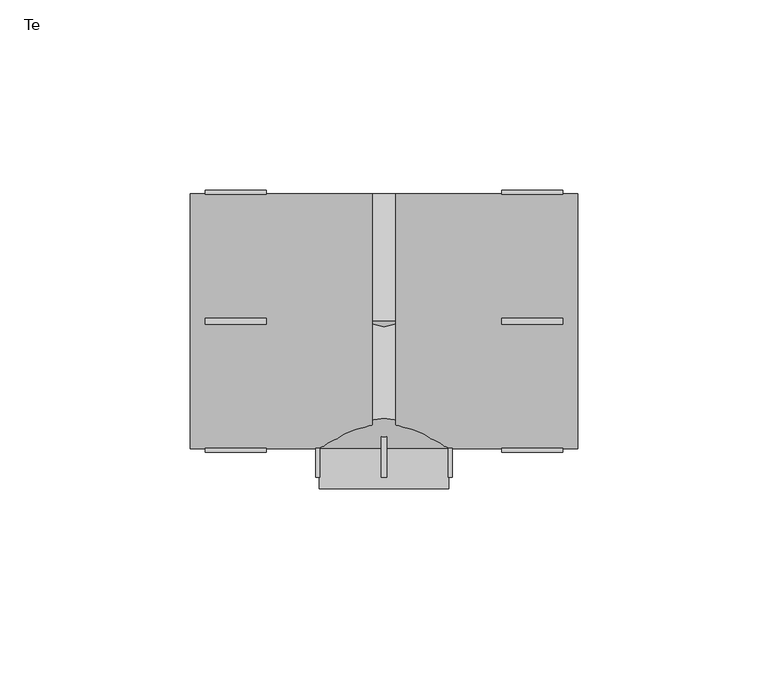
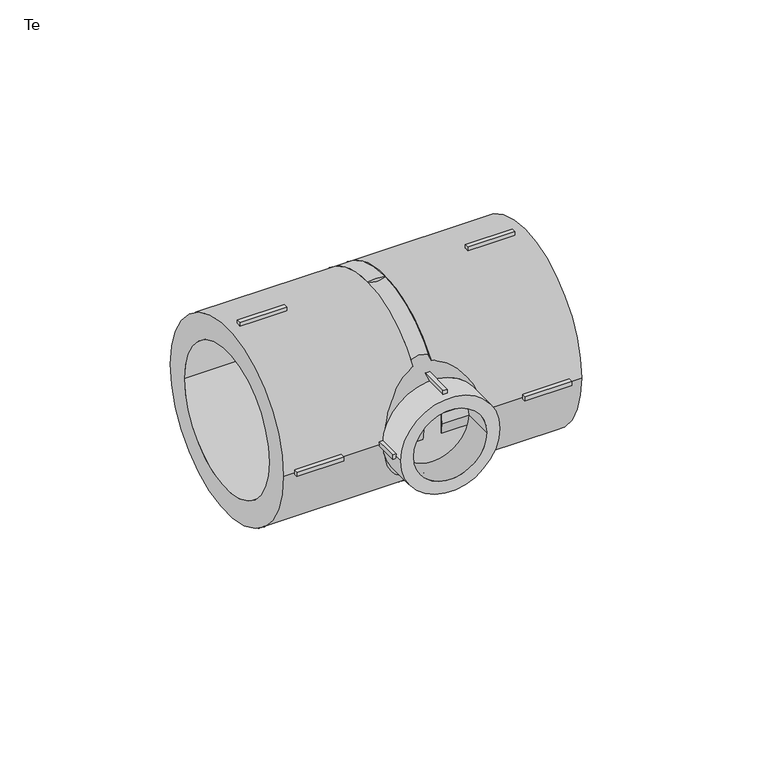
"""IFC4 building model written with IfcOpenShell, lengths in millimetres: pipe fitting geometry, EGB_VASEN_ PPR_Te WXR300_Te reducida WXR310 : Te."""

import ifcopenshell
import ifcopenshell.guid

model = None  # the IFC model being written
_history = None  # IfcOwnerHistory: only IFC2X3 demands one
_inside = {}  # id of a spatial element -> (the spatial element, [elements in it])
_under = {}  # id of a project, library or spatial element -> (it, [spatial elements below it])
_declared = {}  # id of a project -> (the project, [libraries it declares])
_typed = {}  # id of a type object -> (the type object, [elements of that type])
_made_of = {}  # id of a material, layer set ... -> (it, [elements and type objects made of it])


def new_model(schema):
    """Start an empty IFC model of exactly this schema.

    Asked for "IFC4X3", IfcOpenShell would pick the latest addendum, in which some entities
    have other attributes; the version numbers below select the first issue.
    IFC2X3 requires an IfcOwnerHistory on every rooted entity: one is made here for all.
    """
    global model, _history
    if schema == "IFC4X3":
        model = ifcopenshell.file(schema_version=(4, 3, 0, 0))
    else:
        model = ifcopenshell.file(schema=schema)
    _inside.clear()
    _under.clear()
    _declared.clear()
    _typed.clear()
    _made_of.clear()
    _history = None
    if model.schema == "IFC2X3":
        org = make("IfcOrganization", Name="unknown")
        user = make(
            "IfcPersonAndOrganization",
            ThePerson=make("IfcPerson", FamilyName="unknown"),
            TheOrganization=org,
        )
        app = make(
            "IfcApplication",
            ApplicationDeveloper=org,
            Version="unknown",
            ApplicationFullName="unknown",
            ApplicationIdentifier="unknown",
        )
        _history = make(
            "IfcOwnerHistory",
            OwningUser=user,
            OwningApplication=app,
            ChangeAction="ADDED",
            CreationDate=0,
        )
    return model


def make(cls, **values):
    """One entity of the class cls with the attributes given. An attribute that is None is left unset."""
    return model.create_entity(
        cls, **{name: value for name, value in values.items() if value is not None}
    )


def rooted(cls, **values):
    """An entity with a GlobalId (a new one), such as an element, a storey or a relation."""
    return make(cls, GlobalId=ifcopenshell.guid.new(), OwnerHistory=_history, **values)


def si_unit(unit_type, name, prefix=None):
    """IfcSIUnit, for example si_unit("LENGTHUNIT", "METRE", prefix="MILLI")."""
    return make("IfcSIUnit", UnitType=unit_type, Prefix=prefix, Name=name)


def assignment(units):
    """IfcUnitAssignment: the units of a project."""
    return None if units is None else make("IfcUnitAssignment", Units=units)


def point(xyz):
    """IfcCartesianPoint."""
    return None if xyz is None else make("IfcCartesianPoint", Coordinates=xyz)


def direction(xyz):
    """IfcDirection."""
    return None if xyz is None else make("IfcDirection", DirectionRatios=xyz)


def frame(location, z_axis=None, x_axis=None):
    """IfcAxis2Placement3D, a coordinate frame: its origin and axes. An axis left out is left unset."""
    return make(
        "IfcAxis2Placement3D",
        Location=point(location),
        Axis=direction(z_axis),
        RefDirection=direction(x_axis),
    )


def frame_2d(location, x_axis=None):
    """IfcAxis2Placement2D, a coordinate frame in the plane: its origin and x axis."""
    return make(
        "IfcAxis2Placement2D", Location=point(location), RefDirection=direction(x_axis)
    )


def origin():
    """The frame at (0, 0, 0) with its axes left unset."""
    return frame((0.0, 0.0, 0.0))


def origin_2d():
    """The frame at (0, 0) in the plane with its x axis left unset."""
    return frame_2d((0.0, 0.0))


def place(relative_to, where):
    """IfcLocalPlacement: puts the frame where relative to a parent placement (None: the world)."""
    return make(
        "IfcLocalPlacement", PlacementRelTo=relative_to, RelativePlacement=where
    )


def context(
    kind, dimensions, precision=None, world=None, true_north=None, identifier=None
):
    """IfcGeometricRepresentationContext, for example the 3D "Model" context."""
    return make(
        "IfcGeometricRepresentationContext",
        ContextIdentifier=identifier,
        ContextType=kind,
        CoordinateSpaceDimension=dimensions,
        Precision=precision,
        WorldCoordinateSystem=world,
        TrueNorth=true_north,
    )


def project(units=None, contexts=None):
    """IfcProject with its units and contexts."""
    return rooted(
        "IfcProject",
        Name="project",
        RepresentationContexts=contexts,
        UnitsInContext=assignment(units),
    )


def spatial(cls, under=None, at=None, **own):
    """A site, building, storey or space (cls), placed at a placement, below another one or the project."""
    s = rooted(cls, ObjectPlacement=at, **own)
    if under is not None:
        _under.setdefault(under.id(), (under, []))[1].append(s)
    return s


def polyline(points):
    """IfcPolyline through the points."""
    return make("IfcPolyline", Points=[point(p) for p in points])


def circle_curve(where, radius):
    """IfcCircle in the frame where."""
    return make("IfcCircle", Position=where, Radius=radius)


def trimmed(basis, trim1, trim2, sense, master):
    """IfcTrimmedCurve: the piece of a basis curve between two trims."""
    return make(
        "IfcTrimmedCurve",
        BasisCurve=basis,
        Trim1=trim1,
        Trim2=trim2,
        SenseAgreement=sense,
        MasterRepresentation=master,
    )


def segment(curve, same_sense, transition):
    """IfcCompositeCurveSegment."""
    return make(
        "IfcCompositeCurveSegment",
        Transition=transition,
        SameSense=same_sense,
        ParentCurve=curve,
    )


def composite_curve(segments, self_intersect=None):
    """IfcCompositeCurve: segments joined end to end."""
    return make("IfcCompositeCurve", Segments=segments, SelfIntersect=self_intersect)


def outline(outer, holes=None, kind="AREA"):
    """IfcArbitraryClosedProfileDef: a profile drawn as a closed curve; with holes, ...WithVoids."""
    if holes is None:
        return make("IfcArbitraryClosedProfileDef", ProfileType=kind, OuterCurve=outer)
    return make(
        "IfcArbitraryProfileDefWithVoids",
        ProfileType=kind,
        OuterCurve=outer,
        InnerCurves=holes,
    )


def extrude(swept, where, along, depth):
    """IfcExtrudedAreaSolid: the profile swept, set in the frame where, extruded along a direction by depth."""
    return make(
        "IfcExtrudedAreaSolid",
        SweptArea=swept,
        Position=where,
        ExtrudedDirection=direction(along),
        Depth=depth,
    )


def shape(context_of_items, identifier, shape_type, items):
    """IfcShapeRepresentation: the items that make up one representation, for example the "Body"."""
    return make(
        "IfcShapeRepresentation",
        ContextOfItems=context_of_items,
        RepresentationIdentifier=identifier,
        RepresentationType=shape_type,
        Items=items,
    )


def source(mapping_origin, context_of_items, identifier, shape_type, items):
    """IfcRepresentationMap: a shape defined once, which mapped items show again and again."""
    return make(
        "IfcRepresentationMap",
        MappingOrigin=mapping_origin,
        MappedRepresentation=shape(context_of_items, identifier, shape_type, items),
    )


def transform(
    local_origin,
    x_axis=None,
    y_axis=None,
    z_axis=None,
    scale=None,
    scale2=None,
    scale3=None,
    uniform=True,
):
    """IfcCartesianTransformationOperator3D, or its non-uniform kind. x_axis, y_axis, z_axis: its Axis1, 2, 3."""
    if uniform:
        return make(
            "IfcCartesianTransformationOperator3D",
            Axis1=direction(x_axis),
            Axis2=direction(y_axis),
            LocalOrigin=point(local_origin),
            Scale=scale,
            Axis3=direction(z_axis),
        )
    return make(
        "IfcCartesianTransformationOperator3DnonUniform",
        Axis1=direction(x_axis),
        Axis2=direction(y_axis),
        LocalOrigin=point(local_origin),
        Scale=scale,
        Axis3=direction(z_axis),
        Scale2=scale2,
        Scale3=scale3,
    )


def mapped(mapping_source, mapping_target):
    """IfcMappedItem: shows the shape of a source again, moved by a transform."""
    return make(
        "IfcMappedItem", MappingSource=mapping_source, MappingTarget=mapping_target
    )


def made_of(thing, what):
    """Note that an element or type object is made of a material, layer set ...; save() writes the relation."""
    if what is not None:
        _made_of.setdefault(what.id(), (what, []))[1].append(thing)
    return thing


def element(
    cls,
    number,
    at=None,
    inside=None,
    cuts=None,
    type_object=None,
    material=None,
    context=None,
    identifier="Body",
    shape_type=None,
    held_by="IfcProductDefinitionShape",
    body=None,
    shapes=None,
    **own,
):
    """One element of the class cls, such as IfcWall. Its Tag is "e" and its number.

    at: its placement. inside: the storey or other place that contains it. cuts: it is an
    opening in that element (IfcRelVoidsElement). A single representation is given by context,
    identifier, shape_type and body (its items); several are given by shapes. held_by: the class
    of the entity that holds the representations. save() writes the other relations.
    """
    e = rooted(cls, Tag="e%d" % number, ObjectPlacement=at, **own)
    if body is not None:
        shapes = [shape(context, identifier, shape_type, body)]
    if shapes is not None:
        e.Representation = make(held_by, Representations=shapes)
    if inside is not None:
        _inside.setdefault(inside.id(), (inside, []))[1].append(e)
    if cuts is not None:
        rooted(
            "IfcRelVoidsElement", RelatingBuildingElement=cuts, RelatedOpeningElement=e
        )
    if type_object is not None:
        _typed.setdefault(type_object.id(), (type_object, []))[1].append(e)
    return made_of(e, material)


def aggregate(whole, parts):
    """IfcRelAggregates: a whole, such as a stair, and the parts it consists of."""
    return rooted("IfcRelAggregates", RelatingObject=whole, RelatedObjects=parts)


def save(model, path):
    """Write the relations noted so far, then the file.

    IfcRelAggregates (storeys below a building ...), IfcRelContainedInSpatialStructure (elements
    in a storey), IfcRelDefinesByType, IfcRelAssociatesMaterial and IfcRelDeclares: one each for
    every whole, place, type object, material and project.
    """
    for whole, parts in _under.values():
        aggregate(whole, parts)
    for where, things in _inside.values():
        rooted(
            "IfcRelContainedInSpatialStructure",
            RelatedElements=things,
            RelatingStructure=where,
        )
    for kind, things in _typed.values():
        rooted("IfcRelDefinesByType", RelatedObjects=things, RelatingType=kind)
    for what, things in _made_of.values():
        rooted("IfcRelAssociatesMaterial", RelatedObjects=things, RelatingMaterial=what)
    for by, libraries in _declared.values():
        rooted("IfcRelDeclares", RelatingContext=by, RelatedDefinitions=libraries)
    model.write(path)


def plane_surface(at):
    """IfcPlane: the flat surface through the origin of the frame at, square to its z axis."""
    return make("IfcPlane", Position=at)


def revolved_surface(curve, axis_point, axis_direction):
    """IfcSurfaceOfRevolution: the curve turned about the line through axis_point along axis_direction."""
    return make(
        "IfcSurfaceOfRevolution",
        SweptCurve=make("IfcArbitraryOpenProfileDef", ProfileType="CURVE", Curve=curve),
        AxisPosition=make("IfcAxis1Placement", Location=point(axis_point), Axis=direction(axis_direction)),
    )


def advanced_brep(points, edges, surfaces, faces):
    """IfcAdvancedBrep: a solid bounded by faces that lie on surfaces and meet in shared edges.

    An edge is (start, end): straight between two places in points (the first is 0);
    or (start, end, curve); or (start, end, curve, False) where it runs against its curve.
    A face is (place in surfaces, loops), or (place, loops, False) where it looks against
    its surface's normal. A loop lists edges by number (the first is 1), with a minus sign
    where the edge is run from its end to its start. The first loop is the outer one.
    """
    corners = [point(p) for p in points]
    vertices = [make("IfcVertexPoint", VertexGeometry=c) for c in corners]
    made = []
    for start, end, *more in edges:
        made.append(
            make(
                "IfcEdgeCurve",
                EdgeStart=vertices[start],
                EdgeEnd=vertices[end],
                EdgeGeometry=more[0] if more else make("IfcPolyline", Points=[corners[start], corners[end]]),
                SameSense=more[1] if len(more) > 1 else True,
            )
        )
    hull = []
    for where, loops, *sense in faces:
        bounds = []
        for j, loop in enumerate(loops):
            ring = [make("IfcOrientedEdge", EdgeElement=made[abs(k) - 1], Orientation=k > 0) for k in loop]
            bounds.append(
                make(
                    "IfcFaceOuterBound" if j == 0 else "IfcFaceBound",
                    Bound=make("IfcEdgeLoop", EdgeList=ring),
                    Orientation=True,
                )
            )
        hull.append(make("IfcAdvancedFace", Bounds=bounds, FaceSurface=surfaces[where], SameSense=sense[0] if sense else True))
    return make("IfcAdvancedBrep", Outer=make("IfcClosedShell", CfsFaces=hull))


def te_1f9a1925(model_context):
    return source(origin(), model_context, "Body", "SolidModel", [
        extrude(outline(polyline([(-0.75, -29.0), (0.75, -29.0), (0.75, -41.0), (-0.75, -41.0), (-0.75, -29.0)])), frame((0.0, 0.0, 16.0), z_axis=(0.0, 0.0, 1.0), x_axis=(1.0, 0.0, 0.0)), (0.0, 0.0, 1.0), 2.0),
        extrude(outline(polyline([(-0.75, -29.0), (0.75, -29.0), (0.75, -41.0), (-0.75, -41.0), (-0.75, -29.0)])), frame((0.0, 0.0, -18.0), z_axis=(0.0, 0.0, 1.0), x_axis=(1.0, 0.0, 0.0)), (0.0, 0.0, 1.0), 2.0),
        extrude(outline(polyline([(16.0, -29.0), (18.0, -29.0), (18.0, -41.0), (16.0, -41.0), (16.0, -29.0)])), frame((0.0, 0.0, -0.75), z_axis=(0.0, 0.0, 1.0), x_axis=(1.0, 0.0, 0.0)), (0.0, 0.0, 1.0), 1.5),
        extrude(outline(polyline([(-18.0, -29.0), (-16.0, -29.0), (-16.0, -41.0), (-18.0, -41.0), (-18.0, -29.0)])), frame((0.0, 0.0, -0.75), z_axis=(0.0, 0.0, 1.0), x_axis=(1.0, 0.0, 0.0)), (0.0, 0.0, 1.0), 1.5),
        extrude(outline(polyline([(31.0, -0.75), (31.0, 0.75), (47.0, 0.75), (47.0, -0.75), (31.0, -0.75)])), frame((0.0, 0.0, 32.5), z_axis=(0.0, 0.0, 1.0), x_axis=(1.0, 0.0, 0.0)), (0.0, 0.0, 1.0), 2.0),
        extrude(outline(polyline([(31.0, -0.75), (31.0, 0.75), (47.0, 0.75), (47.0, -0.75), (31.0, -0.75)])), frame((0.0, 0.0, -34.5), z_axis=(0.0, 0.0, 1.0), x_axis=(1.0, 0.0, 0.0)), (0.0, 0.0, 1.0), 2.0),
        extrude(outline(polyline([(31.0, 32.5), (31.0, 34.5), (47.0, 34.5), (47.0, 32.5), (31.0, 32.5)])), frame((0.0, 0.0, -0.75), z_axis=(0.0, 0.0, 1.0), x_axis=(1.0, 0.0, 0.0)), (0.0, 0.0, 1.0), 1.5),
        extrude(outline(polyline([(31.0, -34.5), (31.0, -32.5), (47.0, -32.5), (47.0, -34.5), (31.0, -34.5)])), frame((0.0, 0.0, -0.75), z_axis=(0.0, 0.0, 1.0), x_axis=(1.0, 0.0, 0.0)), (0.0, 0.0, 1.0), 1.5),
        extrude(outline(polyline([(-31.0, 0.75), (-31.0, -0.75), (-47.0, -0.75), (-47.0, 0.75), (-31.0, 0.75)])), frame((0.0, 0.0, 32.5), z_axis=(0.0, 0.0, 1.0), x_axis=(1.0, 0.0, 0.0)), (0.0, 0.0, 1.0), 2.0),
        extrude(outline(polyline([(-31.0, 0.75), (-31.0, -0.75), (-47.0, -0.75), (-47.0, 0.75), (-31.0, 0.75)])), frame((0.0, 0.0, -34.5), z_axis=(0.0, 0.0, 1.0), x_axis=(1.0, 0.0, 0.0)), (0.0, 0.0, 1.0), 2.0),
        extrude(outline(polyline([(-31.0, 34.5), (-31.0, 32.5), (-47.0, 32.5), (-47.0, 34.5), (-31.0, 34.5)])), frame((0.0, 0.0, -0.75), z_axis=(0.0, 0.0, 1.0), x_axis=(1.0, 0.0, 0.0)), (0.0, 0.0, 1.0), 1.5),
        extrude(outline(polyline([(-31.0, -32.5), (-31.0, -34.5), (-47.0, -34.5), (-47.0, -32.5), (-31.0, -32.5)])), frame((0.0, 0.0, -0.75), z_axis=(0.0, 0.0, 1.0), x_axis=(1.0, 0.0, 0.0)), (0.0, 0.0, 1.0), 1.5),
        extrude(outline(composite_curve([segment(trimmed(circle_curve(origin_2d(), 17.0), [point((0.0, 17.0))], [point((0.0, -17.0))], False, "CARTESIAN"), True, "CONTINUOUS"), segment(trimmed(circle_curve(origin_2d(), 17.0), [point((0.0, -17.0))], [point((0.0, 17.0))], False, "CARTESIAN"), True, "CONTINUOUS")], self_intersect=False), holes=[composite_curve([segment(trimmed(circle_curve(origin_2d(), 12.5), [point((0.0, 12.5))], [point((0.0, -12.5))], True, "CARTESIAN"), True, "CONTINUOUS"), segment(trimmed(circle_curve(origin_2d(), 12.5), [point((0.0, -12.5))], [point((0.0, 12.5))], True, "CARTESIAN"), True, "CONTINUOUS")], self_intersect=False)]), frame((0.0, -44.0, 0.0), z_axis=(0.0, 1.0, 0.0), x_axis=(0.0, 0.0, 1.0)), (0.0, 0.0, 1.0), 10.5),
        extrude(outline(composite_curve([segment(trimmed(circle_curve(origin_2d(), 33.5), [point((-33.5, 0.0))], [point((33.5, 0.0))], False, "CARTESIAN"), True, "CONTINUOUS"), segment(trimmed(circle_curve(origin_2d(), 33.5), [point((33.5, 0.0))], [point((-33.5, 0.0))], False, "CARTESIAN"), True, "CONTINUOUS")], self_intersect=False), holes=[composite_curve([segment(trimmed(circle_curve(origin_2d(), 25.0), [point((-25.0, 0.0))], [point((25.0, 0.0))], True, "CARTESIAN"), True, "CONTINUOUS"), segment(trimmed(circle_curve(origin_2d(), 25.0), [point((25.0, 0.0))], [point((-25.0, 0.0))], True, "CARTESIAN"), True, "CONTINUOUS")], self_intersect=False)]), frame((3.08, 0.0, 0.0), z_axis=(1.0, 0.0, 0.0), x_axis=(0.0, 1.0, 0.0)), (0.0, 0.0, 1.0), 47.92),
        extrude(outline(composite_curve([segment(trimmed(circle_curve(origin_2d(), 33.5), [point((-33.5, 0.0))], [point((33.5, 0.0))], False, "CARTESIAN"), True, "CONTINUOUS"), segment(trimmed(circle_curve(origin_2d(), 33.5), [point((33.5, 0.0))], [point((-33.5, 0.0))], False, "CARTESIAN"), True, "CONTINUOUS")], self_intersect=False), holes=[composite_curve([segment(trimmed(circle_curve(origin_2d(), 25.0), [point((-25.0, 0.0))], [point((25.0, 0.0))], True, "CARTESIAN"), True, "CONTINUOUS"), segment(trimmed(circle_curve(origin_2d(), 25.0), [point((25.0, 0.0))], [point((-25.0, 0.0))], True, "CARTESIAN"), True, "CONTINUOUS")], self_intersect=False)]), frame((-51.0, 0.0, 0.0), z_axis=(1.0, 0.0, 0.0), x_axis=(0.0, 1.0, 0.0)), (0.0, 0.0, 1.0), 47.92),
        advanced_brep(
        [(33.5, 0.0, 0.0), (-33.5, 0.0, 0.0), (17.0, -33.5, 0.0), (-17.0, -33.5, 0.0)],
        [
            (0, 1, circle_curve(frame((0.0, 0.0, 0.0), z_axis=(0.0, 1.0, 0.0), x_axis=(1.0, 0.0, 0.0)), 33.5)),
            (1, 0, circle_curve(frame((0.0, 0.0, 0.0), z_axis=(0.0, 1.0, 0.0), x_axis=(-1.0, 0.0, 0.0)), 33.5)),
            (2, 3, circle_curve(frame((0.0, -33.5, 0.0), z_axis=(0.0, -1.0, 0.0), x_axis=(-1.0, 0.0, 0.0)), 17.0)),
            (3, 2, circle_curve(frame((0.0, -33.5, 0.0), z_axis=(0.0, -1.0, 0.0), x_axis=(1.0, 0.0, 0.0)), 17.0)),
            (3, 1),
            (0, 2),
        ],
        [
            plane_surface(frame((0.0, 0.0, 0.0), z_axis=(0.0, 1.0, 0.0), x_axis=(0.0, 0.0, -1.0))),
            plane_surface(frame((0.0, -33.5, 0.0), z_axis=(0.0, -1.0, 0.0), x_axis=(0.0, 0.0, -1.0))),
            revolved_surface(polyline([(-16.99999999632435, -33.49999999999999, 0.0), (-33.5, 0.0, 0.0)]), (0.0, -68.0151515, 0.0), (0.0, 1.0, 0.0)),
            revolved_surface(polyline([(16.99999999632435, -33.49999999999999, 0.0), (33.5, 0.0, 0.0)]), (0.0, -68.0151515, 0.0), (0.0, 1.0, 0.0)),
        ],
        [
            (0, [[1, 2]]),
            (1, [[3, 4]]),
            (2, [[-4, 5, -1, 6]]),
            (3, [[-3, -6, -2, -5]]),
        ],
    ),
        extrude(outline(composite_curve([segment(trimmed(circle_curve(origin_2d(), 33.5), [point((-33.5, 0.0))], [point((33.5, 0.0))], False, "CARTESIAN"), True, "CONTINUOUS"), segment(trimmed(circle_curve(origin_2d(), 33.5), [point((33.5, 0.0))], [point((-33.5, 0.0))], False, "CARTESIAN"), True, "CONTINUOUS")], self_intersect=False)), frame((-3.08, 0.0, 0.0), z_axis=(1.0, 0.0, 0.0), x_axis=(0.0, 1.0, 0.0)), (0.0, 0.0, 1.0), 6.16),
    ])


if __name__ == "__main__":
    model = new_model("IFC4")
    model_context = context("Model", 3, world=origin())
    ifc_project = project(units=[si_unit("LENGTHUNIT", "METRE", prefix="MILLI")], contexts=[model_context])
    site = spatial("IfcSite", under=ifc_project)
    building = spatial("IfcBuilding", under=site)
    placement = place(None, origin())
    te_shape = te_1f9a1925(model_context)
    element("IfcPipeFitting", 1, ObjectType="EGB_VASEN_ PPR_Te WXR300_Te reducida WXR310 : Te", at=placement, inside=building, context=model_context, shape_type="MappedRepresentation", body=[
        mapped(te_shape, transform((0.0, 0.0, 0.0), x_axis=(1.0, 0.0, 0.0), y_axis=(0.0, 1.0, 0.0), z_axis=(0.0, 0.0, 1.0))),
    ])
    save(model, "model.ifc")
